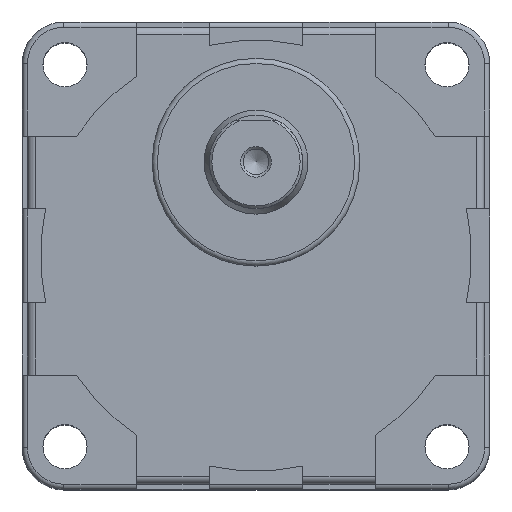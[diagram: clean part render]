
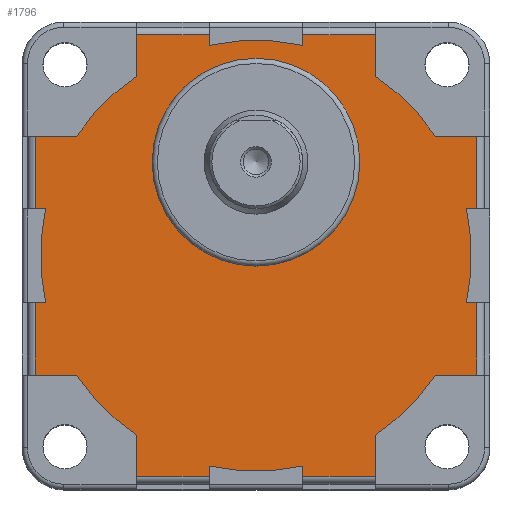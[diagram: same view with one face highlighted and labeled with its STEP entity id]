
A CAD part, top view. The second image highlights one B-rep face of the part: STEP entity #1796.
In plain terms, the highlighted planar face has unit normal (0, 0, 1).
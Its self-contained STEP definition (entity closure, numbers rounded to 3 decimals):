
#45=FACE_BOUND('',#334,.T.);
#120=CIRCLE('',#1923,20.);
#125=CIRCLE('',#1933,41.5);
#126=CIRCLE('',#1934,41.5);
#127=CIRCLE('',#1935,41.5);
#128=CIRCLE('',#1936,41.5);
#129=CIRCLE('',#1937,41.5);
#130=CIRCLE('',#1938,41.5);
#131=CIRCLE('',#1939,41.5);
#132=CIRCLE('',#1940,41.5);
#210=FACE_OUTER_BOUND('',#333,.T.);
#333=EDGE_LOOP('',(#1270,#1271,#1272,#1273,#1274,#1275,#1276,#1277,#1278,
#1279,#1280,#1281,#1282,#1283,#1284,#1285,#1286,#1287,#1288,#1289,#1290,
#1291,#1292,#1293,#1294,#1295,#1296,#1297,#1298,#1299,#1300,#1301));
#334=EDGE_LOOP('',(#1302));
#432=LINE('',#2738,#599);
#436=LINE('',#2750,#603);
#438=LINE('',#2756,#605);
#439=LINE('',#2760,#606);
#440=LINE('',#2762,#607);
#441=LINE('',#2764,#608);
#442=LINE('',#2768,#609);
#443=LINE('',#2770,#610);
#444=LINE('',#2772,#611);
#445=LINE('',#2776,#612);
#446=LINE('',#2778,#613);
#447=LINE('',#2780,#614);
#448=LINE('',#2784,#615);
#449=LINE('',#2786,#616);
#450=LINE('',#2788,#617);
#451=LINE('',#2792,#618);
#452=LINE('',#2794,#619);
#453=LINE('',#2796,#620);
#454=LINE('',#2800,#621);
#455=LINE('',#2802,#622);
#456=LINE('',#2804,#623);
#457=LINE('',#2807,#624);
#458=LINE('',#2809,#625);
#459=LINE('',#2812,#626);
#599=VECTOR('',#2184,14.);
#603=VECTOR('',#2194,14.);
#605=VECTOR('',#2200,7.957);
#606=VECTOR('',#2203,7.957);
#607=VECTOR('',#2204,14.);
#608=VECTOR('',#2205,1.988);
#609=VECTOR('',#2208,1.988);
#610=VECTOR('',#2209,14.);
#611=VECTOR('',#2210,7.957);
#612=VECTOR('',#2213,7.957);
#613=VECTOR('',#2214,14.);
#614=VECTOR('',#2215,1.988);
#615=VECTOR('',#2218,1.988);
#616=VECTOR('',#2219,14.);
#617=VECTOR('',#2220,7.957);
#618=VECTOR('',#2223,7.957);
#619=VECTOR('',#2224,14.);
#620=VECTOR('',#2225,1.988);
#621=VECTOR('',#2228,1.988);
#622=VECTOR('',#2229,14.);
#623=VECTOR('',#2230,7.957);
#624=VECTOR('',#2233,7.957);
#625=VECTOR('',#2234,1.988);
#626=VECTOR('',#2237,1.988);
#791=VERTEX_POINT('',#2727);
#792=VERTEX_POINT('',#2731);
#795=VERTEX_POINT('',#2736);
#799=VERTEX_POINT('',#2747);
#800=VERTEX_POINT('',#2749);
#802=VERTEX_POINT('',#2755);
#803=VERTEX_POINT('',#2757);
#804=VERTEX_POINT('',#2759);
#805=VERTEX_POINT('',#2761);
#806=VERTEX_POINT('',#2763);
#807=VERTEX_POINT('',#2765);
#808=VERTEX_POINT('',#2767);
#809=VERTEX_POINT('',#2769);
#810=VERTEX_POINT('',#2771);
#811=VERTEX_POINT('',#2773);
#812=VERTEX_POINT('',#2775);
#813=VERTEX_POINT('',#2777);
#814=VERTEX_POINT('',#2779);
#815=VERTEX_POINT('',#2781);
#816=VERTEX_POINT('',#2783);
#817=VERTEX_POINT('',#2785);
#818=VERTEX_POINT('',#2787);
#819=VERTEX_POINT('',#2789);
#820=VERTEX_POINT('',#2791);
#821=VERTEX_POINT('',#2793);
#822=VERTEX_POINT('',#2795);
#823=VERTEX_POINT('',#2797);
#824=VERTEX_POINT('',#2799);
#825=VERTEX_POINT('',#2801);
#826=VERTEX_POINT('',#2803);
#827=VERTEX_POINT('',#2805);
#828=VERTEX_POINT('',#2808);
#829=VERTEX_POINT('',#2810);
#973=EDGE_CURVE('',#791,#791,#120,.T.);
#977=EDGE_CURVE('',#795,#792,#432,.T.);
#982=EDGE_CURVE('',#799,#800,#436,.T.);
#985=EDGE_CURVE('',#795,#802,#438,.T.);
#986=EDGE_CURVE('',#803,#802,#125,.T.);
#987=EDGE_CURVE('',#804,#803,#439,.T.);
#988=EDGE_CURVE('',#805,#804,#440,.T.);
#989=EDGE_CURVE('',#806,#805,#441,.T.);
#990=EDGE_CURVE('',#807,#806,#126,.T.);
#991=EDGE_CURVE('',#807,#808,#442,.T.);
#992=EDGE_CURVE('',#809,#808,#443,.T.);
#993=EDGE_CURVE('',#809,#810,#444,.T.);
#994=EDGE_CURVE('',#811,#810,#127,.T.);
#995=EDGE_CURVE('',#812,#811,#445,.T.);
#996=EDGE_CURVE('',#813,#812,#446,.T.);
#997=EDGE_CURVE('',#814,#813,#447,.T.);
#998=EDGE_CURVE('',#815,#814,#128,.T.);
#999=EDGE_CURVE('',#815,#816,#448,.T.);
#1000=EDGE_CURVE('',#817,#816,#449,.T.);
#1001=EDGE_CURVE('',#817,#818,#450,.T.);
#1002=EDGE_CURVE('',#819,#818,#129,.T.);
#1003=EDGE_CURVE('',#820,#819,#451,.T.);
#1004=EDGE_CURVE('',#821,#820,#452,.T.);
#1005=EDGE_CURVE('',#822,#821,#453,.T.);
#1006=EDGE_CURVE('',#823,#822,#130,.T.);
#1007=EDGE_CURVE('',#823,#824,#454,.T.);
#1008=EDGE_CURVE('',#825,#824,#455,.T.);
#1009=EDGE_CURVE('',#825,#826,#456,.T.);
#1010=EDGE_CURVE('',#827,#826,#131,.T.);
#1011=EDGE_CURVE('',#800,#827,#457,.T.);
#1012=EDGE_CURVE('',#828,#799,#458,.T.);
#1013=EDGE_CURVE('',#829,#828,#132,.T.);
#1014=EDGE_CURVE('',#829,#792,#459,.T.);
#1270=ORIENTED_EDGE('',*,*,#977,.F.);
#1271=ORIENTED_EDGE('',*,*,#985,.T.);
#1272=ORIENTED_EDGE('',*,*,#986,.F.);
#1273=ORIENTED_EDGE('',*,*,#987,.F.);
#1274=ORIENTED_EDGE('',*,*,#988,.F.);
#1275=ORIENTED_EDGE('',*,*,#989,.F.);
#1276=ORIENTED_EDGE('',*,*,#990,.F.);
#1277=ORIENTED_EDGE('',*,*,#991,.T.);
#1278=ORIENTED_EDGE('',*,*,#992,.F.);
#1279=ORIENTED_EDGE('',*,*,#993,.T.);
#1280=ORIENTED_EDGE('',*,*,#994,.F.);
#1281=ORIENTED_EDGE('',*,*,#995,.F.);
#1282=ORIENTED_EDGE('',*,*,#996,.F.);
#1283=ORIENTED_EDGE('',*,*,#997,.F.);
#1284=ORIENTED_EDGE('',*,*,#998,.F.);
#1285=ORIENTED_EDGE('',*,*,#999,.T.);
#1286=ORIENTED_EDGE('',*,*,#1000,.F.);
#1287=ORIENTED_EDGE('',*,*,#1001,.T.);
#1288=ORIENTED_EDGE('',*,*,#1002,.F.);
#1289=ORIENTED_EDGE('',*,*,#1003,.F.);
#1290=ORIENTED_EDGE('',*,*,#1004,.F.);
#1291=ORIENTED_EDGE('',*,*,#1005,.F.);
#1292=ORIENTED_EDGE('',*,*,#1006,.F.);
#1293=ORIENTED_EDGE('',*,*,#1007,.T.);
#1294=ORIENTED_EDGE('',*,*,#1008,.F.);
#1295=ORIENTED_EDGE('',*,*,#1009,.T.);
#1296=ORIENTED_EDGE('',*,*,#1010,.F.);
#1297=ORIENTED_EDGE('',*,*,#1011,.F.);
#1298=ORIENTED_EDGE('',*,*,#982,.F.);
#1299=ORIENTED_EDGE('',*,*,#1012,.F.);
#1300=ORIENTED_EDGE('',*,*,#1013,.F.);
#1301=ORIENTED_EDGE('',*,*,#1014,.T.);
#1302=ORIENTED_EDGE('',*,*,#973,.F.);
#1729=PLANE('',#1932);
#1796=ADVANCED_FACE('',(#210,#45),#1729,.T.);
#1923=AXIS2_PLACEMENT_3D('',#2728,#2173,#2174);
#1932=AXIS2_PLACEMENT_3D('',#2754,#2198,#2199);
#1933=AXIS2_PLACEMENT_3D('',#2758,#2201,#2202);
#1934=AXIS2_PLACEMENT_3D('',#2766,#2206,#2207);
#1935=AXIS2_PLACEMENT_3D('',#2774,#2211,#2212);
#1936=AXIS2_PLACEMENT_3D('',#2782,#2216,#2217);
#1937=AXIS2_PLACEMENT_3D('',#2790,#2221,#2222);
#1938=AXIS2_PLACEMENT_3D('',#2798,#2226,#2227);
#1939=AXIS2_PLACEMENT_3D('',#2806,#2231,#2232);
#1940=AXIS2_PLACEMENT_3D('',#2811,#2235,#2236);
#2173=DIRECTION('center_axis',(0.,0.,1.));
#2174=DIRECTION('ref_axis',(-1.,0.,0.));
#2184=DIRECTION('',(0.,-1.,0.));
#2194=DIRECTION('',(0.,-1.,0.));
#2198=DIRECTION('center_axis',(0.,0.,1.));
#2199=DIRECTION('ref_axis',(1.,0.,0.));
#2200=DIRECTION('',(-1.,0.,0.));
#2201=DIRECTION('center_axis',(0.,0.,-1.));
#2202=DIRECTION('ref_axis',(-1.,0.,0.));
#2203=DIRECTION('',(0.,-1.,0.));
#2204=DIRECTION('',(1.,0.,0.));
#2205=DIRECTION('',(0.,1.,0.));
#2206=DIRECTION('center_axis',(0.,0.,-1.));
#2207=DIRECTION('ref_axis',(-1.,0.,0.));
#2208=DIRECTION('',(0.,1.,0.));
#2209=DIRECTION('',(1.,0.,0.));
#2210=DIRECTION('',(0.,-1.,0.));
#2211=DIRECTION('center_axis',(0.,0.,-1.));
#2212=DIRECTION('ref_axis',(-1.,0.,0.));
#2213=DIRECTION('',(1.,0.,0.));
#2214=DIRECTION('',(0.,1.,0.));
#2215=DIRECTION('',(-1.,0.,0.));
#2216=DIRECTION('center_axis',(0.,0.,-1.));
#2217=DIRECTION('ref_axis',(-1.,0.,0.));
#2218=DIRECTION('',(-1.,0.,0.));
#2219=DIRECTION('',(0.,1.,0.));
#2220=DIRECTION('',(1.,0.,0.));
#2221=DIRECTION('center_axis',(0.,0.,-1.));
#2222=DIRECTION('ref_axis',(-1.,0.,0.));
#2223=DIRECTION('',(0.,1.,0.));
#2224=DIRECTION('',(-1.,0.,0.));
#2225=DIRECTION('',(0.,-1.,0.));
#2226=DIRECTION('center_axis',(0.,0.,-1.));
#2227=DIRECTION('ref_axis',(-1.,0.,0.));
#2228=DIRECTION('',(0.,-1.,0.));
#2229=DIRECTION('',(-1.,0.,0.));
#2230=DIRECTION('',(0.,1.,0.));
#2231=DIRECTION('center_axis',(0.,0.,-1.));
#2232=DIRECTION('ref_axis',(-1.,0.,0.));
#2233=DIRECTION('',(-1.,0.,0.));
#2234=DIRECTION('',(1.,0.,0.));
#2235=DIRECTION('center_axis',(0.,0.,-1.));
#2236=DIRECTION('ref_axis',(-1.,0.,0.));
#2237=DIRECTION('',(1.,0.,0.));
#2727=CARTESIAN_POINT('',(20.,18.,63.2));
#2728=CARTESIAN_POINT('Origin',(0.,18.,63.2));
#2731=CARTESIAN_POINT('',(42.5,9.,63.2));
#2736=CARTESIAN_POINT('',(42.5,23.,63.2));
#2738=CARTESIAN_POINT('',(42.5,11.5,63.2));
#2747=CARTESIAN_POINT('',(42.5,-9.,63.2));
#2749=CARTESIAN_POINT('',(42.5,-23.,63.2));
#2750=CARTESIAN_POINT('',(42.5,-11.5,63.2));
#2754=CARTESIAN_POINT('Origin',(0.,0.,
63.2));
#2755=CARTESIAN_POINT('',(34.543,23.,63.2));
#2756=CARTESIAN_POINT('',(34.543,23.,63.2));
#2757=CARTESIAN_POINT('',(23.,34.543,63.2));
#2758=CARTESIAN_POINT('Origin',(0.,0.,63.2));
#2759=CARTESIAN_POINT('',(23.,42.5,63.2));
#2760=CARTESIAN_POINT('',(23.,34.543,63.2));
#2761=CARTESIAN_POINT('',(9.,42.5,63.2));
#2762=CARTESIAN_POINT('',(11.5,42.5,63.2));
#2763=CARTESIAN_POINT('',(9.,40.512,63.2));
#2764=CARTESIAN_POINT('',(9.,45.,63.2));
#2765=CARTESIAN_POINT('',(-9.,40.512,63.2));
#2766=CARTESIAN_POINT('Origin',(0.,0.,63.2));
#2767=CARTESIAN_POINT('',(-9.,42.5,63.2));
#2768=CARTESIAN_POINT('',(-9.,45.,63.2));
#2769=CARTESIAN_POINT('',(-23.,42.5,63.2));
#2770=CARTESIAN_POINT('',(-11.5,42.5,63.2));
#2771=CARTESIAN_POINT('',(-23.,34.543,63.2));
#2772=CARTESIAN_POINT('',(-23.,34.543,63.2));
#2773=CARTESIAN_POINT('',(-34.543,23.,63.2));
#2774=CARTESIAN_POINT('Origin',(0.,0.,63.2));
#2775=CARTESIAN_POINT('',(-42.5,23.,63.2));
#2776=CARTESIAN_POINT('',(-34.543,23.,63.2));
#2777=CARTESIAN_POINT('',(-42.5,9.,63.2));
#2778=CARTESIAN_POINT('',(-42.5,11.5,63.2));
#2779=CARTESIAN_POINT('',(-40.512,9.,63.2));
#2780=CARTESIAN_POINT('',(-45.,9.,63.2));
#2781=CARTESIAN_POINT('',(-40.512,-9.,63.2));
#2782=CARTESIAN_POINT('Origin',(0.,0.,63.2));
#2783=CARTESIAN_POINT('',(-42.5,-9.,63.2));
#2784=CARTESIAN_POINT('',(-45.,-9.,63.2));
#2785=CARTESIAN_POINT('',(-42.5,-23.,63.2));
#2786=CARTESIAN_POINT('',(-42.5,-11.5,63.2));
#2787=CARTESIAN_POINT('',(-34.543,-23.,63.2));
#2788=CARTESIAN_POINT('',(-34.543,-23.,63.2));
#2789=CARTESIAN_POINT('',(-23.,-34.543,63.2));
#2790=CARTESIAN_POINT('Origin',(0.,0.,63.2));
#2791=CARTESIAN_POINT('',(-23.,-42.5,63.2));
#2792=CARTESIAN_POINT('',(-23.,-34.543,63.2));
#2793=CARTESIAN_POINT('',(-9.,-42.5,63.2));
#2794=CARTESIAN_POINT('',(-11.5,-42.5,63.2));
#2795=CARTESIAN_POINT('',(-9.,-40.512,63.2));
#2796=CARTESIAN_POINT('',(-9.,-45.,63.2));
#2797=CARTESIAN_POINT('',(9.,-40.512,63.2));
#2798=CARTESIAN_POINT('Origin',(0.,0.,63.2));
#2799=CARTESIAN_POINT('',(9.,-42.5,63.2));
#2800=CARTESIAN_POINT('',(9.,-45.,63.2));
#2801=CARTESIAN_POINT('',(23.,-42.5,63.2));
#2802=CARTESIAN_POINT('',(11.5,-42.5,63.2));
#2803=CARTESIAN_POINT('',(23.,-34.543,63.2));
#2804=CARTESIAN_POINT('',(23.,-34.543,63.2));
#2805=CARTESIAN_POINT('',(34.543,-23.,63.2));
#2806=CARTESIAN_POINT('Origin',(0.,0.,63.2));
#2807=CARTESIAN_POINT('',(34.543,-23.,63.2));
#2808=CARTESIAN_POINT('',(40.512,-9.,63.2));
#2809=CARTESIAN_POINT('',(45.,-9.,63.2));
#2810=CARTESIAN_POINT('',(40.512,9.,63.2));
#2811=CARTESIAN_POINT('Origin',(0.,0.,63.2));
#2812=CARTESIAN_POINT('',(45.,9.,63.2));
